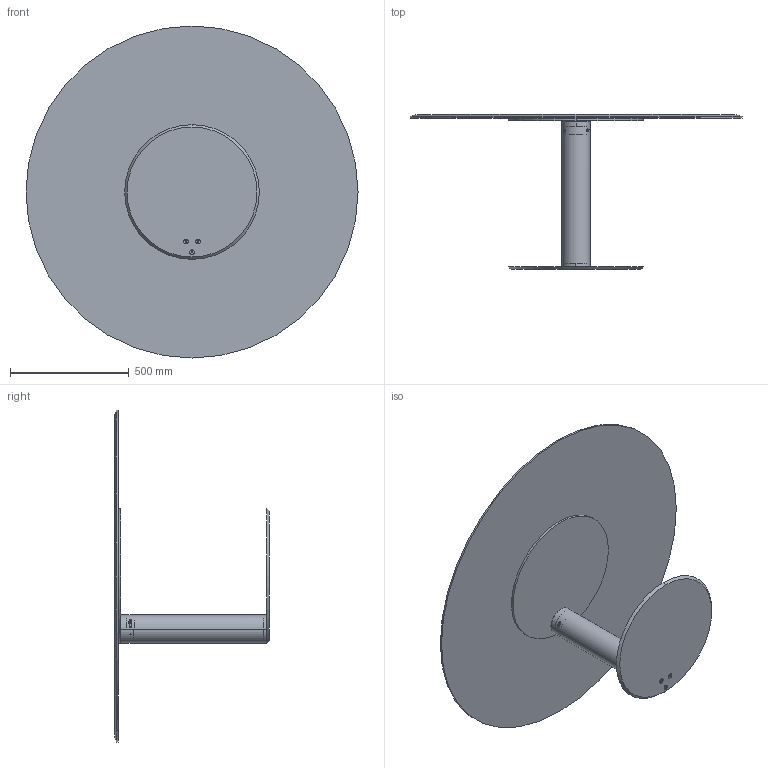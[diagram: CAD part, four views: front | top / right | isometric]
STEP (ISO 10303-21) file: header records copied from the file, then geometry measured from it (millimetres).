
FILE_DESCRIPTION (( 'STEP AP214' ), '1' );
FILE_NAME ('Ø140_LOUNGE.STEP', '2026-04-02T06:50:41', ( '' ), ( '' ), 'SwSTEP 2.0', 'SolidWorks 2025', '' );
FILE_SCHEMA (( 'AUTOMOTIVE_DESIGN' ));
Length unit declared in the file: millimetre
Products named in the file (12): piano_Ø140; socket head cap screw_am_B18.3.1M - 8 x 1.25 x 16 Hex SHCS -- 16NHX; OTO_colonna interna Ø80_colonna interna_LOUNGE; OTO_anello piastra sup; Ø140_LOUNGE; OTO_piastra inferiore svasata_Ø568mm; socket countersunk head screw_am_B18.3.5M - 8 x 1.25 x 25 Socket FCHS  -- 25C; OTO_piastra superiore_Ø568mm; OTO_colonnaØ120_colonna LOUNGE; OTO_blocchetto FE da saldare; OTO_anello fissaggio piastra sup; socket countersunk head screw_am_B18.3.5M - 10 x 1.5 x 40 Socket FCHS  -- 40N
Assembly tree (17 placements, depth 2):
  Ø140_LOUNGE
    OTO_colonna interna Ø80_colonna interna_LOUNGE
    OTO_blocchetto FE da saldare
    OTO_colonnaØ120_colonna LOUNGE
    OTO_anello fissaggio piastra sup
    OTO_anello piastra sup
    OTO_piastra inferiore svasata_Ø568mm
    OTO_piastra superiore_Ø568mm
    socket countersunk head screw_am_B18.3.5M - 8 x 1.25 x 25 Socket FCHS  -- 25C  x4
    piano_Ø140
    socket countersunk head screw_am_B18.3.5M - 10 x 1.5 x 40 Socket FCHS  -- 40N  x3
    socket head cap screw_am_B18.3.1M - 8 x 1.25 x 16 Hex SHCS -- 16NHX  x2
Bounding box: 1400 x 653.2 x 1400 mm (x, y, z)
Volume: 29098057.1 mm3; surface area: 5011362.2 mm2
Topology: 17 solids, 17 shells, 374 faces, 823 edges, 473 vertices
Faces by surface type: plane 152, cylinder 102, cone 102, torus 18
Entity records: 6856 total; most frequent: CARTESIAN_POINT 1481, DIRECTION 1157, ORIENTED_EDGE 938, EDGE_CURVE 469, AXIS2_PLACEMENT_3D 463, VERTEX_POINT 285, EDGE_LOOP 264, LINE 231
